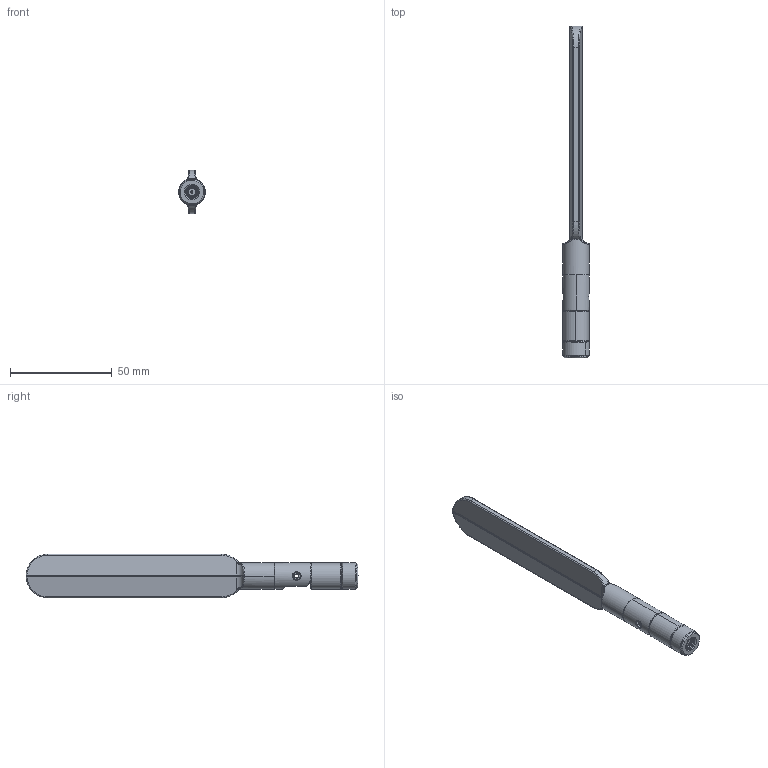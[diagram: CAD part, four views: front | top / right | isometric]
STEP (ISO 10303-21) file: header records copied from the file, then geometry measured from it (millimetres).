
FILE_DESCRIPTION (( 'STEP AP214' ), '1' );
FILE_NAME ('antenna_cell.STEP', '2023-02-01T14:15:02', ( '' ), ( '' ), 'SwSTEP 2.0', 'SolidWorks 2019', '' );
FILE_SCHEMA (( 'AUTOMOTIVE_DESIGN' ));
Length unit declared in the file: millimetre
Products named in the file (7): HY; 210214K000000A_SMA(M)ST_TG35_TYPE2; 000112E040020A_Hinge_Top_B_Ver02; antenna_cell; 000112E030020A_Hinge_Bottom_B_Ver01; 000112E020020A_Housing_Bottom_Hinge_Ver03
Assembly tree (6 placements, depth 3):
  antenna_cell
    HY
      000112E030020A_Hinge_Bottom_B_Ver01
      000112E040020A_Hinge_Top_B_Ver02
      000112E020020A_Housing_Bottom_Hinge_Ver03
    210214K000000A_SMA(M)ST_TG35_TYPE2
      210214K000000A_SMA(M)ST_TG35_TYPE2
Bounding box: 13.03 x 162.84 x 21.3 mm (x, y, z)
Volume: 16821.2 mm3; surface area: 9408.9 mm2
Topology: 4 solids, 4 shells, 231 faces, 595 edges, 378 vertices
Faces by surface type: cylinder 94, bspline 60, plane 55, cone 14, torus 8
Entity records: 10917 total; most frequent: CARTESIAN_POINT 5505, ORIENTED_EDGE 1182, DIRECTION 826, EDGE_CURVE 591, VERTEX_POINT 378, AXIS2_PLACEMENT_3D 330, EDGE_LOOP 247, FACE_OUTER_BOUND 231
